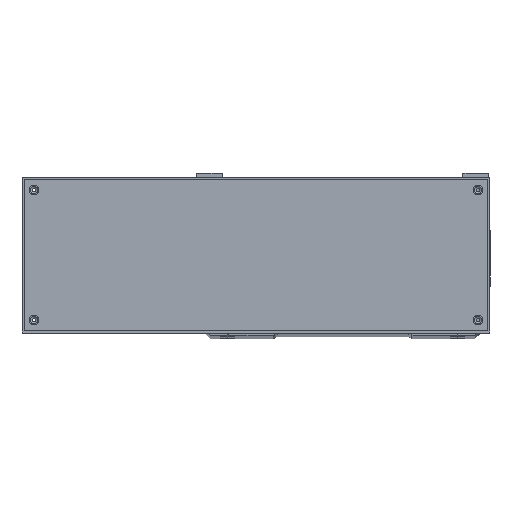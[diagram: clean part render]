
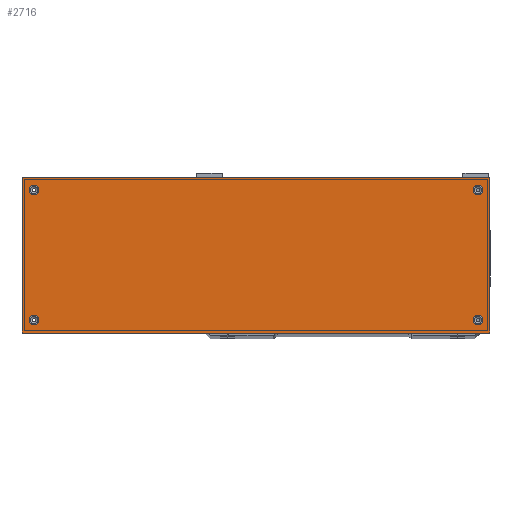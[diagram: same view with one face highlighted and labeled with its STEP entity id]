
A CAD part, top view. The second image highlights one B-rep face of the part: STEP entity #2716.
In plain terms, the highlighted planar face has unit normal (0, 0, 1).
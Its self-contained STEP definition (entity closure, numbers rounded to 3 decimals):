
#932=FACE_BOUND('',#4683,.T.);
#933=FACE_BOUND('',#4684,.T.);
#934=FACE_BOUND('',#4685,.T.);
#935=FACE_BOUND('',#4686,.T.);
#936=FACE_BOUND('',#4687,.T.);
#2018=CIRCLE('',#16653,2.25);
#2020=CIRCLE('',#16656,2.25);
#2022=CIRCLE('',#16659,2.25);
#2024=CIRCLE('',#16662,2.25);
#2716=ADVANCED_FACE('',(#932,#933,#934,#935,#936),#3473,.F.);
#3473=PLANE('',#16668);
#4683=EDGE_LOOP('',(#7227));
#4684=EDGE_LOOP('',(#7228));
#4685=EDGE_LOOP('',(#7229));
#4686=EDGE_LOOP('',(#7230));
#4687=EDGE_LOOP('',(#7231,#7232,#7233,#7234));
#7227=ORIENTED_EDGE('',*,*,#12658,.F.);
#7228=ORIENTED_EDGE('',*,*,#12660,.F.);
#7229=ORIENTED_EDGE('',*,*,#12662,.F.);
#7230=ORIENTED_EDGE('',*,*,#12664,.F.);
#7231=ORIENTED_EDGE('',*,*,#12424,.F.);
#7232=ORIENTED_EDGE('',*,*,#12674,.F.);
#7233=ORIENTED_EDGE('',*,*,#12665,.F.);
#7234=ORIENTED_EDGE('',*,*,#12443,.F.);
#10662=VERTEX_POINT('',#24855);
#10663=VERTEX_POINT('',#24857);
#10674=VERTEX_POINT('',#24890);
#10820=VERTEX_POINT('',#25783);
#10822=VERTEX_POINT('',#25788);
#10824=VERTEX_POINT('',#25793);
#10826=VERTEX_POINT('',#25798);
#10827=VERTEX_POINT('',#25801);
#12424=EDGE_CURVE('',#10662,#10663,#14211,.T.);
#12443=EDGE_CURVE('',#10663,#10674,#14228,.T.);
#12658=EDGE_CURVE('',#10820,#10820,#2018,.T.);
#12660=EDGE_CURVE('',#10822,#10822,#2020,.T.);
#12662=EDGE_CURVE('',#10824,#10824,#2022,.T.);
#12664=EDGE_CURVE('',#10826,#10826,#2024,.T.);
#12665=EDGE_CURVE('',#10674,#10827,#14337,.T.);
#12674=EDGE_CURVE('',#10827,#10662,#14344,.T.);
#14211=LINE('',#24856,#15333);
#14228=LINE('',#24889,#15350);
#14337=LINE('',#25800,#15459);
#14344=LINE('',#25817,#15466);
#15333=VECTOR('',#19154,1.);
#15350=VECTOR('',#19181,1.);
#15459=VECTOR('',#19632,1.);
#15466=VECTOR('',#19645,1.);
#16653=AXIS2_PLACEMENT_3D('',#25782,#19610,#19611);
#16656=AXIS2_PLACEMENT_3D('',#25787,#19616,#19617);
#16659=AXIS2_PLACEMENT_3D('',#25792,#19622,#19623);
#16662=AXIS2_PLACEMENT_3D('',#25797,#19628,#19629);
#16668=AXIS2_PLACEMENT_3D('',#25824,#19651,#19652);
#19154=DIRECTION('',(0.,-1.,0.));
#19181=DIRECTION('',(-1.,0.,0.));
#19610=DIRECTION('',(0.,0.,1.));
#19611=DIRECTION('',(-1.,0.,0.));
#19616=DIRECTION('',(0.,0.,1.));
#19617=DIRECTION('',(1.,0.,0.));
#19622=DIRECTION('',(0.,0.,1.));
#19623=DIRECTION('',(-1.,0.,0.));
#19628=DIRECTION('',(0.,0.,1.));
#19629=DIRECTION('',(1.,0.,0.));
#19632=DIRECTION('',(0.,1.,0.));
#19645=DIRECTION('',(1.,0.,0.));
#19651=DIRECTION('',(0.,0.,-1.));
#19652=DIRECTION('',(1.,0.,0.));
#24855=CARTESIAN_POINT('',(68.,72.,193.));
#24856=CARTESIAN_POINT('',(68.,72.,193.));
#24857=CARTESIAN_POINT('',(68.,0.,193.));
#24889=CARTESIAN_POINT('',(68.,0.,193.));
#24890=CARTESIAN_POINT('',(-148.,0.,193.));
#25782=CARTESIAN_POINT('',(-142.5,6.,193.));
#25783=CARTESIAN_POINT('',(-144.75,6.,193.));
#25787=CARTESIAN_POINT('',(62.5,6.,193.));
#25788=CARTESIAN_POINT('',(64.75,6.,193.));
#25792=CARTESIAN_POINT('',(62.5,66.,193.));
#25793=CARTESIAN_POINT('',(60.25,66.,193.));
#25797=CARTESIAN_POINT('',(-142.5,66.,193.));
#25798=CARTESIAN_POINT('',(-140.25,66.,193.));
#25800=CARTESIAN_POINT('',(-148.,72.,193.));
#25801=CARTESIAN_POINT('',(-148.,72.,193.));
#25817=CARTESIAN_POINT('',(68.,72.,193.));
#25824=CARTESIAN_POINT('',(-40.,36.,193.));
